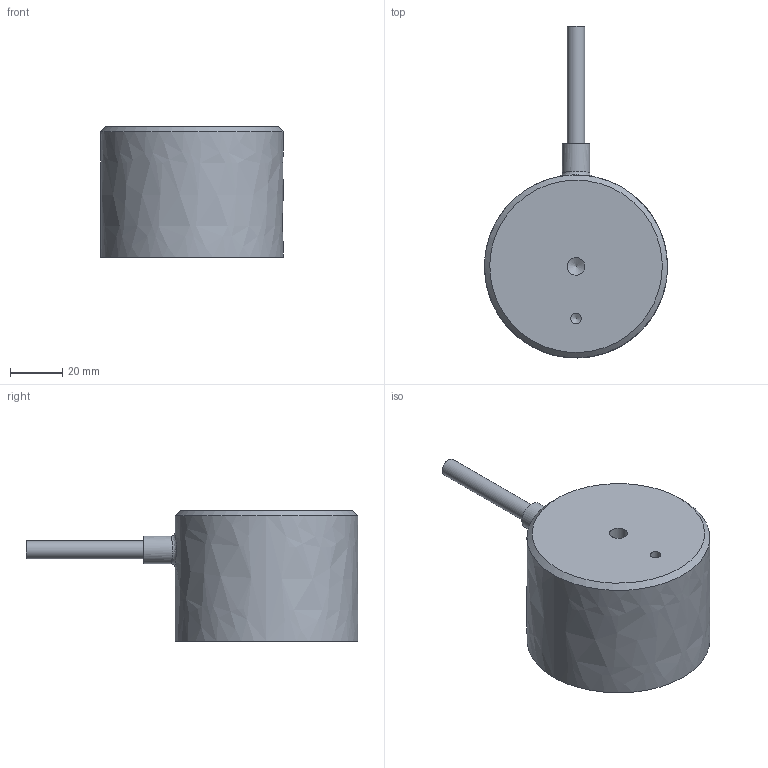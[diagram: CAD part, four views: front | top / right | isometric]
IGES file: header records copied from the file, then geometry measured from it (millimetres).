
Global section: file name: EMH-1-70Dx50H-S; native system: unknown; preprocessor: unknown; author: unknown; organization: unknown; date: 20231215.115333; units: millimetre
Bounding box: 70 x 127 x 50 mm (x, y, z)
Volume: 193654.1 mm3; surface area: 20291.5 mm2
Topology: 2 solids, 2 shells, 18 faces, 35 edges, 24 vertices
Faces by surface type: bspline 18
